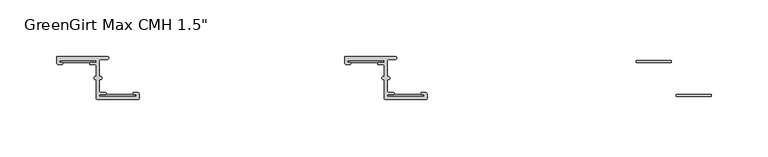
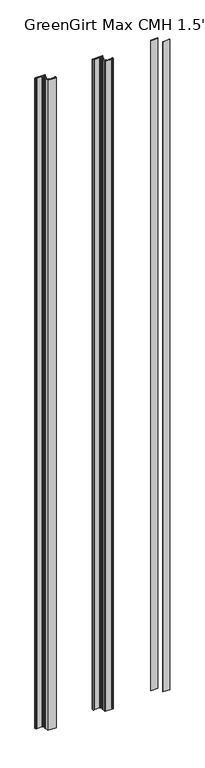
"""IFC4 building model written with IfcOpenShell, lengths in millimetres: fastener geometry."""

from ifc_helpers import new_model, si_unit, frame, origin, origin_with_axes, place, context, project, spatial, polyline, circle_curve, outline, extrude, source, transform, mapped, element, save
from ifc_brep_helpers import plane_surface, cylinder_surface, revolved_surface, advanced_brep


def fastener_70a87223(model_context):
    return source(origin(), model_context, "Body", "SolidModel", [
        extrude(outline(polyline([(1863.09, -3.556), (1863.09, -5.2832), (1832.102, -5.2832), (1832.102, -3.556), (1863.09, -3.556)])), origin_with_axes(), (0.0, 0.0, 1.0), 3048.0),
        extrude(outline(polyline([(1898.269, -33.7057766), (1898.269, -35.4329766), (1867.281, -35.4329766), (1867.281, -33.7057766), (1898.269, -33.7057766)])), origin_with_axes(), (0.0, 0.0, 1.0), 3048.0),
        advanced_brep(
        [(1578.102, -3.556, 3048.0), (1609.09, -3.556, 3048.0), (1609.09, -5.2832, 3048.0), (1604.899, -5.2832, 3048.0), (1604.899, -7.3152, 3048.0), (1609.09, -7.3152, 3048.0), (1609.852, -8.0772, 3048.0), (1609.852, -17.7601563, 3048.0), (1609.0035567, -17.7601563, 3048.0), (1609.0035567, -20.4288947, 3048.0), (1609.852, -20.4288947, 3048.0), (1609.852, -37.3379766, 3048.0), (1610.614, -38.0999766, 3048.0), (1646.8513242, -38.1, 3048.0), (1647.571, -37.3379766, 3048.0), (1647.571, -33.7057766, 3048.0), (1645.539, -31.6737766, 3048.0), (1643.253, -31.6737766, 3048.0), (1643.253, -33.7057766, 3048.0), (1644.269, -33.7057766, 3048.0), (1644.269, -35.4329766, 3048.0), (1613.281, -35.4329766, 3048.0), (1613.281, -33.7057766, 3048.0), (1617.472, -33.7057766, 3048.0), (1617.472, -31.6737766, 3048.0), (1613.281, -31.6737766, 3048.0), (1612.519, -30.9117766, 3048.0), (1612.519, -20.4279799, 3048.0), (1613.3679007, -20.4279799, 3048.0), (1613.3679007, -17.7601563, 3048.0), (1612.519, -17.7601563, 3048.0), (1612.519, -3.429, 3048.0), (1613.281, -2.667, 3048.0), (1619.377, -2.667, 3048.0), (1619.377, 0.0, 3048.0), (1575.562, 0.0, 3048.0), (1574.8, -0.762, 3048.0), (1574.8, -5.2832, 3048.0), (1576.832, -7.3152, 3048.0), (1579.118, -7.3152, 3048.0), (1579.118, -5.2832, 3048.0), (1578.102, -5.2832, 3048.0), (1578.102, -3.556, 0.0), (1578.102, -5.2832, 0.0), (1579.118, -5.2832, 0.0), (1579.118, -7.3152, 0.0), (1576.832, -7.3152, 0.0), (1574.8, -5.2832, 0.0), (1574.8, -0.762, 0.0), (1575.562, 0.0, 0.0), (1619.377, 0.0, 0.0), (1619.377, -2.667, 0.0), (1613.281, -2.667, 0.0), (1612.519, -3.429, 0.0), (1612.519, -17.7601563, 0.0), (1613.3679007, -17.7601563, 0.0), (1613.3679007, -20.4279799, 0.0), (1612.519, -20.4279799, 0.0), (1612.519, -30.9117766, 0.0), (1613.281, -31.6737766, 0.0), (1617.472, -31.6737766, 0.0), (1617.472, -33.7057766, 0.0), (1613.281, -33.7057766, 0.0), (1613.281, -35.4329766, 0.0), (1644.269, -35.4329766, 0.0), (1644.269, -33.7057766, 0.0), (1643.253, -33.7057766, 0.0), (1643.253, -31.6737766, 0.0), (1645.539, -31.6737766, 0.0), (1647.571, -33.7057766, 0.0), (1647.571, -37.3379766, 0.0), (1646.809, -38.0999766, 0.0), (1610.7467826, -38.1, 0.0), (1609.852, -37.3379766, 0.0), (1609.852, -20.4288947, 0.0), (1609.0035567, -20.4288947, 0.0), (1609.0035567, -17.7601563, 0.0), (1609.852, -17.7601563, 0.0), (1609.852, -8.0772, 0.0), (1609.09, -7.3152, 0.0), (1604.899, -7.3152, 0.0), (1604.899, -5.2832, 0.0), (1609.09, -5.2832, 0.0), (1609.09, -3.556, 0.0)],
        [
            (0, 1),
            (1, 2, circle_curve(frame((1609.09, -4.4196, 3048.0), z_axis=(0.0, 0.0, -1.0), x_axis=(1.0, 0.0, 0.0)), 0.8636)),
            (2, 3),
            (3, 4, circle_curve(frame((1604.899, -6.2992, 3048.0), z_axis=(0.0, 0.0, 1.0), x_axis=(1.0, 0.0, 0.0)), 1.016)),
            (4, 5),
            (5, 6, circle_curve(frame((1609.09, -8.0772, 3048.0), z_axis=(0.0, 0.0, -1.0), x_axis=(1.0, 0.0, 0.0)), 0.762)),
            (6, 7),
            (7, 8),
            (8, 9, circle_curve(frame((1609.0035567, -19.0945255, 3048.0), z_axis=(0.0, 0.0, 1.0), x_axis=(1.0, 0.0, 0.0)), 1.3343692)),
            (9, 10),
            (10, 11),
            (11, 12, circle_curve(frame((1610.614, -37.3379766, 3048.0), z_axis=(0.0, 0.0, 1.0), x_axis=(1.0, 0.0, 0.0)), 0.762)),
            (12, 13),
            (13, 14, circle_curve(frame((1646.809, -37.3379766, 3048.0), z_axis=(0.0, 0.0, 1.0), x_axis=(1.0, 0.0, 0.0)), 0.762)),
            (14, 15),
            (15, 16, circle_curve(frame((1645.539, -33.7057766, 3048.0), z_axis=(0.0, 0.0, 1.0), x_axis=(1.0, 0.0, 0.0)), 2.032)),
            (16, 17),
            (17, 18, circle_curve(frame((1643.253, -32.6897766, 3048.0), z_axis=(0.0, 0.0, 1.0), x_axis=(1.0, 0.0, 0.0)), 1.016)),
            (18, 19),
            (19, 20, circle_curve(frame((1644.269, -34.5693766, 3048.0), z_axis=(0.0, 0.0, -1.0), x_axis=(1.0, 0.0, 0.0)), 0.8636)),
            (20, 21),
            (21, 22, circle_curve(frame((1613.281, -34.5693766, 3048.0), z_axis=(0.0, 0.0, -1.0), x_axis=(1.0, 0.0, 0.0)), 0.8636)),
            (22, 23),
            (23, 24, circle_curve(frame((1617.472, -32.6897766, 3048.0), z_axis=(0.0, 0.0, 1.0), x_axis=(1.0, 0.0, 0.0)), 1.016)),
            (24, 25),
            (25, 26, circle_curve(frame((1613.281, -30.9117766, 3048.0), z_axis=(0.0, 0.0, -1.0), x_axis=(1.0, 0.0, 0.0)), 0.762)),
            (26, 27),
            (27, 28),
            (28, 29, circle_curve(frame((1613.3679007, -19.0940681, 3048.0), z_axis=(0.0, 0.0, 1.0), x_axis=(1.0, 0.0, 0.0)), 1.3339118)),
            (29, 30),
            (30, 31),
            (31, 32, circle_curve(frame((1613.281, -3.429, 3048.0), z_axis=(0.0, 0.0, -1.0), x_axis=(1.0, 0.0, 0.0)), 0.762)),
            (32, 33),
            (33, 34, circle_curve(frame((1619.377, -1.3335, 3048.0), z_axis=(0.0, 0.0, 1.0), x_axis=(1.0, 0.0, 0.0)), 1.3335)),
            (34, 35),
            (35, 36, circle_curve(frame((1575.562, -0.762, 3048.0), z_axis=(0.0, 0.0, 1.0), x_axis=(1.0, 0.0, 0.0)), 0.762)),
            (36, 37),
            (37, 38, circle_curve(frame((1576.832, -5.2832, 3048.0), z_axis=(0.0, 0.0, 1.0), x_axis=(1.0, 0.0, 0.0)), 2.032)),
            (38, 39),
            (39, 40, circle_curve(frame((1579.118, -6.2992, 3048.0), z_axis=(0.0, 0.0, 1.0), x_axis=(1.0, 0.0, 0.0)), 1.016)),
            (40, 41),
            (41, 0, circle_curve(frame((1578.102, -4.4196, 3048.0), z_axis=(0.0, 0.0, -1.0), x_axis=(1.0, 0.0, 0.0)), 0.8636)),
            (42, 43, circle_curve(frame((1578.102, -4.4196, 0.0), z_axis=(0.0, 0.0, 1.0), x_axis=(1.0, 0.0, 0.0)), 0.8636)),
            (43, 44),
            (44, 45, circle_curve(frame((1579.118, -6.2992, 0.0), z_axis=(0.0, 0.0, -1.0), x_axis=(1.0, 0.0, 0.0)), 1.016)),
            (45, 46),
            (46, 47, circle_curve(frame((1576.832, -5.2832, 0.0), z_axis=(0.0, 0.0, -1.0), x_axis=(1.0, 0.0, 0.0)), 2.032)),
            (47, 48),
            (48, 49, circle_curve(frame((1575.562, -0.762, 0.0), z_axis=(0.0, 0.0, -1.0), x_axis=(1.0, 0.0, 0.0)), 0.762)),
            (49, 50),
            (50, 51, circle_curve(frame((1619.377, -1.3335, 0.0), z_axis=(0.0, 0.0, -1.0), x_axis=(1.0, 0.0, 0.0)), 1.3335)),
            (51, 52),
            (52, 53, circle_curve(frame((1613.281, -3.429, 0.0), z_axis=(0.0, 0.0, 1.0), x_axis=(1.0, 0.0, 0.0)), 0.762)),
            (53, 54),
            (54, 55),
            (55, 56, circle_curve(frame((1613.3679007, -19.0940681, 0.0), z_axis=(0.0, 0.0, -1.0), x_axis=(1.0, 0.0, 0.0)), 1.3339118)),
            (56, 57),
            (57, 58),
            (58, 59, circle_curve(frame((1613.281, -30.9117766, 0.0), z_axis=(0.0, 0.0, 1.0), x_axis=(1.0, 0.0, 0.0)), 0.762)),
            (59, 60),
            (60, 61, circle_curve(frame((1617.472, -32.6897766, 0.0), z_axis=(0.0, 0.0, -1.0), x_axis=(1.0, 0.0, 0.0)), 1.016)),
            (61, 62),
            (62, 63, circle_curve(frame((1613.281, -34.5693766, 0.0), z_axis=(0.0, 0.0, 1.0), x_axis=(1.0, 0.0, 0.0)), 0.8636)),
            (63, 64),
            (64, 65, circle_curve(frame((1644.269, -34.5693766, 0.0), z_axis=(0.0, 0.0, 1.0), x_axis=(1.0, 0.0, 0.0)), 0.8636)),
            (65, 66),
            (66, 67, circle_curve(frame((1643.253, -32.6897766, 0.0), z_axis=(0.0, 0.0, -1.0), x_axis=(1.0, 0.0, 0.0)), 1.016)),
            (67, 68),
            (68, 69, circle_curve(frame((1645.539, -33.7057766, 0.0), z_axis=(0.0, 0.0, -1.0), x_axis=(1.0, 0.0, 0.0)), 2.032)),
            (69, 70),
            (70, 71, circle_curve(frame((1646.809, -37.3379766, 0.0), z_axis=(0.0, 0.0, -1.0), x_axis=(1.0, 0.0, 0.0)), 0.762)),
            (71, 72),
            (72, 73, circle_curve(frame((1610.614, -37.3379766, 0.0), z_axis=(0.0, 0.0, -1.0), x_axis=(1.0, 0.0, 0.0)), 0.762)),
            (73, 74),
            (74, 75),
            (75, 76, circle_curve(frame((1609.0035567, -19.0945255, 0.0), z_axis=(0.0, 0.0, -1.0), x_axis=(1.0, 0.0, 0.0)), 1.3343692)),
            (76, 77),
            (77, 78),
            (78, 79, circle_curve(frame((1609.09, -8.0772, 0.0), z_axis=(0.0, 0.0, 1.0), x_axis=(1.0, 0.0, 0.0)), 0.762)),
            (79, 80),
            (80, 81, circle_curve(frame((1604.899, -6.2992, 0.0), z_axis=(0.0, 0.0, -1.0), x_axis=(1.0, 0.0, 0.0)), 1.016)),
            (81, 82),
            (82, 83, circle_curve(frame((1609.09, -4.4196, 0.0), z_axis=(0.0, 0.0, 1.0), x_axis=(1.0, 0.0, 0.0)), 0.8636)),
            (83, 42),
            (0, 42),
            (83, 1),
            (82, 2),
            (81, 3),
            (80, 4),
            (79, 5),
            (78, 6),
            (77, 7),
            (76, 8),
            (75, 9),
            (74, 10),
            (73, 11),
            (72, 12),
            (71, 13),
            (70, 14),
            (69, 15),
            (68, 16),
            (67, 17),
            (66, 18),
            (65, 19),
            (64, 20),
            (63, 21),
            (62, 22),
            (61, 23),
            (60, 24),
            (59, 25),
            (58, 26),
            (57, 27),
            (56, 28),
            (55, 29),
            (54, 30),
            (53, 31),
            (52, 32),
            (51, 33),
            (50, 34),
            (49, 35),
            (48, 36),
            (47, 37),
            (46, 38),
            (45, 39),
            (44, 40),
            (43, 41),
        ],
        [
            plane_surface(frame((1609.09, -3.556, 3048.0), z_axis=(0.0, 0.0, 1.0), x_axis=(1.0, 0.0, 0.0))),
            plane_surface(frame((1609.09, -3.556, 0.0), z_axis=(0.0, 0.0, -1.0), x_axis=(-1.0, 0.0, 0.0))),
            plane_surface(frame((1578.102, -3.556, 3048.0), z_axis=(0.0, -1.0, 0.0), x_axis=(0.0, 0.0, -1.0))),
            revolved_surface(polyline([(1609.9535999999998, -4.4196, 0.0), (1609.9535999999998, -4.4196, 3048.0)]), (1609.09, -4.4196, 0.0), (0.0, 0.0, -1.0)),
            plane_surface(frame((1609.09, -5.2832, 3048.0), z_axis=(0.0, 1.0, 0.0), x_axis=(0.0, 0.0, -1.0))),
            cylinder_surface(frame((1604.899, -6.2992, 0.0), z_axis=(0.0, 0.0, 1.0), x_axis=(1.0, 0.0, 0.0)), 1.016),
            plane_surface(frame((1604.899, -7.3152, 3048.0), z_axis=(0.0, -1.0, 0.0), x_axis=(0.0, 0.0, -1.0))),
            revolved_surface(polyline([(1609.8519999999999, -8.0772, 0.0), (1609.8519999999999, -8.0772, 3048.0)]), (1609.09, -8.0772, 0.0), (0.0, 0.0, -1.0)),
            plane_surface(frame((1609.852, -8.0772, 3048.0), z_axis=(-1.0, 0.0, 0.0), x_axis=(0.0, 0.0, -1.0))),
            plane_surface(frame((1609.852, -17.7601563, 3048.0), z_axis=(0.0, 1.0, 0.0), x_axis=(0.0, 0.0, -1.0))),
            cylinder_surface(frame((1609.0035567, -19.0945255, 0.0), z_axis=(0.0, 0.0, 1.0), x_axis=(1.0, 0.0, 0.0)), 1.3343692),
            plane_surface(frame((1609.0035567, -20.4288947, 3048.0), z_axis=(0.0, -1.0, 0.0), x_axis=(0.0, 0.0, -1.0))),
            plane_surface(frame((1609.852, -20.4288947, 3048.0), z_axis=(-1.0, 0.0, 0.0), x_axis=(0.0, 0.0, -1.0))),
            cylinder_surface(frame((1610.614, -37.3379766, 0.0), z_axis=(0.0, 0.0, 1.0), x_axis=(1.0, 0.0, 0.0)), 0.762),
            plane_surface(frame((1610.7467826, -38.1, 3048.0), z_axis=(0.0, -1.0, 0.0), x_axis=(0.0, 0.0, -1.0))),
            cylinder_surface(frame((1646.809, -37.3379766, 0.0), z_axis=(0.0, 0.0, 1.0), x_axis=(1.0, 0.0, 0.0)), 0.762),
            plane_surface(frame((1647.571, -37.3379766, 3048.0), z_axis=(1.0, 1.094695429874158e-12, 0.0), x_axis=(0.0, 0.0, -1.0))),
            cylinder_surface(frame((1645.539, -33.7057766, 0.0), z_axis=(0.0, 0.0, 1.0), x_axis=(1.0, 0.0, 0.0)), 2.032),
            plane_surface(frame((1645.539, -31.6737766, 3048.0), z_axis=(0.0, 1.0, 0.0), x_axis=(0.0, 0.0, -1.0))),
            cylinder_surface(frame((1643.253, -32.6897766, 0.0), z_axis=(0.0, 0.0, 1.0), x_axis=(1.0, 0.0, 0.0)), 1.016),
            plane_surface(frame((1643.253, -33.7057766, 3048.0), z_axis=(0.0, -1.0, 0.0), x_axis=(0.0, 0.0, -1.0))),
            revolved_surface(polyline([(1645.1326, -34.5693766, 0.0), (1645.1326, -34.5693766, 3048.0)]), (1644.269, -34.5693766, 0.0), (0.0, 0.0, -1.0)),
            plane_surface(frame((1644.269, -35.4329766, 3048.0), z_axis=(0.0, 1.0, 0.0), x_axis=(0.0, 0.0, -1.0))),
            revolved_surface(polyline([(1614.1445999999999, -34.5693766, 0.0), (1614.1445999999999, -34.5693766, 3048.0)]), (1613.281, -34.5693766, 0.0), (0.0, 0.0, -1.0)),
            plane_surface(frame((1613.281, -33.7057766, 3048.0), z_axis=(0.0, -1.0, 0.0), x_axis=(0.0, 0.0, -1.0))),
            cylinder_surface(frame((1617.472, -32.6897766, 0.0), z_axis=(0.0, 0.0, 1.0), x_axis=(1.0, 0.0, 0.0)), 1.016),
            plane_surface(frame((1617.472, -31.6737766, 3048.0), z_axis=(0.0, 1.0, 0.0), x_axis=(0.0, 0.0, -1.0))),
            revolved_surface(polyline([(1614.043, -30.9117766, 0.0), (1614.043, -30.9117766, 3048.0)]), (1613.281, -30.9117766, 0.0), (0.0, 0.0, -1.0)),
            plane_surface(frame((1612.519, -30.9117766, 3048.0), z_axis=(1.0, 0.0, 0.0), x_axis=(0.0, 0.0, -1.0))),
            plane_surface(frame((1612.519, -20.4279799, 3048.0), z_axis=(0.0, -1.0, 0.0), x_axis=(0.0, 0.0, -1.0))),
            cylinder_surface(frame((1613.3679007, -19.0940681, 0.0), z_axis=(0.0, 0.0, 1.0), x_axis=(1.0, 0.0, 0.0)), 1.3339118),
            plane_surface(frame((1613.3679007, -17.7601563, 3048.0), z_axis=(0.0, 1.0, 0.0), x_axis=(0.0, 0.0, -1.0))),
            plane_surface(frame((1612.519, -17.7601563, 3048.0), z_axis=(1.0, 0.0, 0.0), x_axis=(0.0, 0.0, -1.0))),
            revolved_surface(polyline([(1614.043, -3.429, 0.0), (1614.043, -3.429, 3048.0)]), (1613.281, -3.429, 0.0), (0.0, 0.0, -1.0)),
            plane_surface(frame((1613.281, -2.667, 3048.0), z_axis=(0.0, -1.0, 0.0), x_axis=(0.0, 0.0, -1.0))),
            cylinder_surface(frame((1619.377, -1.3335, 0.0), z_axis=(0.0, 0.0, 1.0), x_axis=(1.0, 0.0, 0.0)), 1.3335),
            plane_surface(frame((1619.377, 0.0, 3048.0), z_axis=(0.0, 1.0, 0.0), x_axis=(0.0, 0.0, -1.0))),
            cylinder_surface(frame((1575.562, -0.762, 0.0), z_axis=(0.0, 0.0, 1.0), x_axis=(1.0, 0.0, 0.0)), 0.762),
            plane_surface(frame((1574.8, -0.762, 3048.0), z_axis=(-1.0, 1.1909948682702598e-12, 0.0), x_axis=(0.0, 0.0, -1.0))),
            cylinder_surface(frame((1576.832, -5.2832, 0.0), z_axis=(0.0, 0.0, 1.0), x_axis=(1.0, 0.0, 0.0)), 2.032),
            plane_surface(frame((1576.832, -7.3152, 3048.0), z_axis=(0.0, -1.0, 0.0), x_axis=(0.0, 0.0, -1.0))),
            cylinder_surface(frame((1579.118, -6.2992, 0.0), z_axis=(0.0, 0.0, 1.0), x_axis=(1.0, 0.0, 0.0)), 1.016),
            plane_surface(frame((1579.118, -5.2832, 3048.0), z_axis=(0.0, 1.0, 0.0), x_axis=(0.0, 0.0, -1.0))),
            revolved_surface(polyline([(1578.9656, -4.4196, 0.0), (1578.9656, -4.4196, 3048.0)]), (1578.102, -4.4196, 0.0), (0.0, 0.0, -1.0)),
        ],
        [
            (0, [[1, 2, 3, 4, 5, 6, 7, 8, 9, 10, 11, 12, 13, 14, 15, 16, 17, 18, 19, 20, 21, 22, 23, 24, 25, 26, 27, 28, 29, 30, 31, 32, 33, 34, 35, 36, 37, 38, 39, 40, 41, 42]]),
            (1, [[43, 44, 45, 46, 47, 48, 49, 50, 51, 52, 53, 54, 55, 56, 57, 58, 59, 60, 61, 62, 63, 64, 65, 66, 67, 68, 69, 70, 71, 72, 73, 74, 75, 76, 77, 78, 79, 80, 81, 82, 83, 84]]),
            (2, [[-1, 85, -84, 86]]),
            (3, [[-2, -86, -83, 87]]),
            (4, [[-3, -87, -82, 88]]),
            (5, [[-4, -88, -81, 89]]),
            (6, [[-5, -89, -80, 90]]),
            (7, [[-6, -90, -79, 91]]),
            (8, [[-7, -91, -78, 92]]),
            (9, [[-8, -92, -77, 93]]),
            (10, [[-9, -93, -76, 94]]),
            (11, [[-10, -94, -75, 95]]),
            (12, [[-11, -95, -74, 96]]),
            (13, [[-12, -96, -73, 97]]),
            (14, [[-13, -97, -72, 98]]),
            (15, [[-14, -98, -71, 99]]),
            (16, [[-15, -99, -70, 100]]),
            (17, [[-16, -100, -69, 101]]),
            (18, [[-17, -101, -68, 102]]),
            (19, [[-18, -102, -67, 103]]),
            (20, [[-19, -103, -66, 104]]),
            (21, [[-20, -104, -65, 105]]),
            (22, [[-21, -105, -64, 106]]),
            (23, [[-22, -106, -63, 107]]),
            (24, [[-23, -107, -62, 108]]),
            (25, [[-24, -108, -61, 109]]),
            (26, [[-25, -109, -60, 110]]),
            (27, [[-26, -110, -59, 111]]),
            (28, [[-27, -111, -58, 112]]),
            (29, [[-28, -112, -57, 113]]),
            (30, [[-29, -113, -56, 114]]),
            (31, [[-30, -114, -55, 115]]),
            (32, [[-31, -115, -54, 116]]),
            (33, [[-32, -116, -53, 117]]),
            (34, [[-33, -117, -52, 118]]),
            (35, [[-34, -118, -51, 119]]),
            (36, [[-35, -119, -50, 120]]),
            (37, [[-36, -120, -49, 121]]),
            (38, [[-37, -121, -48, 122]]),
            (39, [[-38, -122, -47, 123]]),
            (40, [[-39, -123, -46, 124]]),
            (41, [[-40, -124, -45, 125]]),
            (42, [[-41, -125, -44, 126]]),
            (43, [[-42, -126, -43, -85]]),
        ],
    ),
        extrude(outline(polyline([(1609.09, -3.556), (1609.09, -5.2832), (1578.102, -5.2832), (1578.102, -3.556), (1609.09, -3.556)])), origin_with_axes(), (0.0, 0.0, 1.0), 3048.0),
        extrude(outline(polyline([(1644.269, -33.7057766), (1644.269, -35.4329766), (1613.281, -35.4329766), (1613.281, -33.7057766), (1644.269, -33.7057766)])), origin_with_axes(), (0.0, 0.0, 1.0), 3048.0),
        advanced_brep(
        [(1324.102, -3.556, 3048.0), (1355.09, -3.556, 3048.0), (1355.09, -5.2832, 3048.0), (1350.899, -5.2832, 3048.0), (1350.899, -7.3152, 3048.0), (1355.09, -7.3152, 3048.0), (1355.852, -8.0772, 3048.0), (1355.852, -17.7601563, 3048.0), (1355.0035567, -17.7601563, 3048.0), (1355.0035567, -20.4288947, 3048.0), (1355.852, -20.4288947, 3048.0), (1355.852, -37.3379766, 3048.0), (1356.614, -38.0999766, 3048.0), (1392.8513242, -38.1, 3048.0), (1393.571, -37.3379766, 3048.0), (1393.571, -33.7057766, 3048.0), (1391.539, -31.6737766, 3048.0), (1389.253, -31.6737766, 3048.0), (1389.253, -33.7057766, 3048.0), (1390.269, -33.7057766, 3048.0), (1390.269, -35.4329766, 3048.0), (1359.281, -35.4329766, 3048.0), (1359.281, -33.7057766, 3048.0), (1363.472, -33.7057766, 3048.0), (1363.472, -31.6737766, 3048.0), (1359.281, -31.6737766, 3048.0), (1358.519, -30.9117766, 3048.0), (1358.519, -20.4279799, 3048.0), (1359.3679007, -20.4279799, 3048.0), (1359.3679007, -17.7601563, 3048.0), (1358.519, -17.7601563, 3048.0), (1358.519, -3.429, 3048.0), (1359.281, -2.667, 3048.0), (1365.377, -2.667, 3048.0), (1365.377, 0.0, 3048.0), (1321.562, 0.0, 3048.0), (1320.8, -0.762, 3048.0), (1320.8, -5.2832, 3048.0), (1322.832, -7.3152, 3048.0), (1325.118, -7.3152, 3048.0), (1325.118, -5.2832, 3048.0), (1324.102, -5.2832, 3048.0), (1324.102, -3.556, 0.0), (1324.102, -5.2832, 0.0), (1325.118, -5.2832, 0.0), (1325.118, -7.3152, 0.0), (1322.832, -7.3152, 0.0), (1320.8, -5.2832, 0.0), (1320.8, -0.762, 0.0), (1321.562, 0.0, 0.0), (1365.377, 0.0, 0.0), (1365.377, -2.667, 0.0), (1359.281, -2.667, 0.0), (1358.519, -3.429, 0.0), (1358.519, -17.7601563, 0.0), (1359.3679007, -17.7601563, 0.0), (1359.3679007, -20.4279799, 0.0), (1358.519, -20.4279799, 0.0), (1358.519, -30.9117766, 0.0), (1359.281, -31.6737766, 0.0), (1363.472, -31.6737766, 0.0), (1363.472, -33.7057766, 0.0), (1359.281, -33.7057766, 0.0), (1359.281, -35.4329766, 0.0), (1390.269, -35.4329766, 0.0), (1390.269, -33.7057766, 0.0), (1389.253, -33.7057766, 0.0), (1389.253, -31.6737766, 0.0), (1391.539, -31.6737766, 0.0), (1393.571, -33.7057766, 0.0), (1393.571, -37.3379766, 0.0), (1392.809, -38.0999766, 0.0), (1356.7467826, -38.1, 0.0), (1355.852, -37.3379766, 0.0), (1355.852, -20.4288947, 0.0), (1355.0035567, -20.4288947, 0.0), (1355.0035567, -17.7601563, 0.0), (1355.852, -17.7601563, 0.0), (1355.852, -8.0772, 0.0), (1355.09, -7.3152, 0.0), (1350.899, -7.3152, 0.0), (1350.899, -5.2832, 0.0), (1355.09, -5.2832, 0.0), (1355.09, -3.556, 0.0)],
        [
            (0, 1),
            (1, 2, circle_curve(frame((1355.09, -4.4196, 3048.0), z_axis=(0.0, 0.0, -1.0), x_axis=(1.0, 0.0, 0.0)), 0.8636)),
            (2, 3),
            (3, 4, circle_curve(frame((1350.899, -6.2992, 3048.0), z_axis=(0.0, 0.0, 1.0), x_axis=(1.0, 0.0, 0.0)), 1.016)),
            (4, 5),
            (5, 6, circle_curve(frame((1355.09, -8.0772, 3048.0), z_axis=(0.0, 0.0, -1.0), x_axis=(1.0, 0.0, 0.0)), 0.762)),
            (6, 7),
            (7, 8),
            (8, 9, circle_curve(frame((1355.0035567, -19.0945255, 3048.0), z_axis=(0.0, 0.0, 1.0), x_axis=(1.0, 0.0, 0.0)), 1.3343692)),
            (9, 10),
            (10, 11),
            (11, 12, circle_curve(frame((1356.614, -37.3379766, 3048.0), z_axis=(0.0, 0.0, 1.0), x_axis=(1.0, 0.0, 0.0)), 0.762)),
            (12, 13),
            (13, 14, circle_curve(frame((1392.809, -37.3379766, 3048.0), z_axis=(0.0, 0.0, 1.0), x_axis=(1.0, 0.0, 0.0)), 0.762)),
            (14, 15),
            (15, 16, circle_curve(frame((1391.539, -33.7057766, 3048.0), z_axis=(0.0, 0.0, 1.0), x_axis=(1.0, 0.0, 0.0)), 2.032)),
            (16, 17),
            (17, 18, circle_curve(frame((1389.253, -32.6897766, 3048.0), z_axis=(0.0, 0.0, 1.0), x_axis=(1.0, 0.0, 0.0)), 1.016)),
            (18, 19),
            (19, 20, circle_curve(frame((1390.269, -34.5693766, 3048.0), z_axis=(0.0, 0.0, -1.0), x_axis=(1.0, 0.0, 0.0)), 0.8636)),
            (20, 21),
            (21, 22, circle_curve(frame((1359.281, -34.5693766, 3048.0), z_axis=(0.0, 0.0, -1.0), x_axis=(1.0, 0.0, 0.0)), 0.8636)),
            (22, 23),
            (23, 24, circle_curve(frame((1363.472, -32.6897766, 3048.0), z_axis=(0.0, 0.0, 1.0), x_axis=(1.0, 0.0, 0.0)), 1.016)),
            (24, 25),
            (25, 26, circle_curve(frame((1359.281, -30.9117766, 3048.0), z_axis=(0.0, 0.0, -1.0), x_axis=(1.0, 0.0, 0.0)), 0.762)),
            (26, 27),
            (27, 28),
            (28, 29, circle_curve(frame((1359.3679007, -19.0940681, 3048.0), z_axis=(0.0, 0.0, 1.0), x_axis=(1.0, 0.0, 0.0)), 1.3339118)),
            (29, 30),
            (30, 31),
            (31, 32, circle_curve(frame((1359.281, -3.429, 3048.0), z_axis=(0.0, 0.0, -1.0), x_axis=(1.0, 0.0, 0.0)), 0.762)),
            (32, 33),
            (33, 34, circle_curve(frame((1365.377, -1.3335, 3048.0), z_axis=(0.0, 0.0, 1.0), x_axis=(1.0, 0.0, 0.0)), 1.3335)),
            (34, 35),
            (35, 36, circle_curve(frame((1321.562, -0.762, 3048.0), z_axis=(0.0, 0.0, 1.0), x_axis=(1.0, 0.0, 0.0)), 0.762)),
            (36, 37),
            (37, 38, circle_curve(frame((1322.832, -5.2832, 3048.0), z_axis=(0.0, 0.0, 1.0), x_axis=(1.0, 0.0, 0.0)), 2.032)),
            (38, 39),
            (39, 40, circle_curve(frame((1325.118, -6.2992, 3048.0), z_axis=(0.0, 0.0, 1.0), x_axis=(1.0, 0.0, 0.0)), 1.016)),
            (40, 41),
            (41, 0, circle_curve(frame((1324.102, -4.4196, 3048.0), z_axis=(0.0, 0.0, -1.0), x_axis=(1.0, 0.0, 0.0)), 0.8636)),
            (42, 43, circle_curve(frame((1324.102, -4.4196, 0.0), z_axis=(0.0, 0.0, 1.0), x_axis=(1.0, 0.0, 0.0)), 0.8636)),
            (43, 44),
            (44, 45, circle_curve(frame((1325.118, -6.2992, 0.0), z_axis=(0.0, 0.0, -1.0), x_axis=(1.0, 0.0, 0.0)), 1.016)),
            (45, 46),
            (46, 47, circle_curve(frame((1322.832, -5.2832, 0.0), z_axis=(0.0, 0.0, -1.0), x_axis=(1.0, 0.0, 0.0)), 2.032)),
            (47, 48),
            (48, 49, circle_curve(frame((1321.562, -0.762, 0.0), z_axis=(0.0, 0.0, -1.0), x_axis=(1.0, 0.0, 0.0)), 0.762)),
            (49, 50),
            (50, 51, circle_curve(frame((1365.377, -1.3335, 0.0), z_axis=(0.0, 0.0, -1.0), x_axis=(1.0, 0.0, 0.0)), 1.3335)),
            (51, 52),
            (52, 53, circle_curve(frame((1359.281, -3.429, 0.0), z_axis=(0.0, 0.0, 1.0), x_axis=(1.0, 0.0, 0.0)), 0.762)),
            (53, 54),
            (54, 55),
            (55, 56, circle_curve(frame((1359.3679007, -19.0940681, 0.0), z_axis=(0.0, 0.0, -1.0), x_axis=(1.0, 0.0, 0.0)), 1.3339118)),
            (56, 57),
            (57, 58),
            (58, 59, circle_curve(frame((1359.281, -30.9117766, 0.0), z_axis=(0.0, 0.0, 1.0), x_axis=(1.0, 0.0, 0.0)), 0.762)),
            (59, 60),
            (60, 61, circle_curve(frame((1363.472, -32.6897766, 0.0), z_axis=(0.0, 0.0, -1.0), x_axis=(1.0, 0.0, 0.0)), 1.016)),
            (61, 62),
            (62, 63, circle_curve(frame((1359.281, -34.5693766, 0.0), z_axis=(0.0, 0.0, 1.0), x_axis=(1.0, 0.0, 0.0)), 0.8636)),
            (63, 64),
            (64, 65, circle_curve(frame((1390.269, -34.5693766, 0.0), z_axis=(0.0, 0.0, 1.0), x_axis=(1.0, 0.0, 0.0)), 0.8636)),
            (65, 66),
            (66, 67, circle_curve(frame((1389.253, -32.6897766, 0.0), z_axis=(0.0, 0.0, -1.0), x_axis=(1.0, 0.0, 0.0)), 1.016)),
            (67, 68),
            (68, 69, circle_curve(frame((1391.539, -33.7057766, 0.0), z_axis=(0.0, 0.0, -1.0), x_axis=(1.0, 0.0, 0.0)), 2.032)),
            (69, 70),
            (70, 71, circle_curve(frame((1392.809, -37.3379766, 0.0), z_axis=(0.0, 0.0, -1.0), x_axis=(1.0, 0.0, 0.0)), 0.762)),
            (71, 72),
            (72, 73, circle_curve(frame((1356.614, -37.3379766, 0.0), z_axis=(0.0, 0.0, -1.0), x_axis=(1.0, 0.0, 0.0)), 0.762)),
            (73, 74),
            (74, 75),
            (75, 76, circle_curve(frame((1355.0035567, -19.0945255, 0.0), z_axis=(0.0, 0.0, -1.0), x_axis=(1.0, 0.0, 0.0)), 1.3343692)),
            (76, 77),
            (77, 78),
            (78, 79, circle_curve(frame((1355.09, -8.0772, 0.0), z_axis=(0.0, 0.0, 1.0), x_axis=(1.0, 0.0, 0.0)), 0.762)),
            (79, 80),
            (80, 81, circle_curve(frame((1350.899, -6.2992, 0.0), z_axis=(0.0, 0.0, -1.0), x_axis=(1.0, 0.0, 0.0)), 1.016)),
            (81, 82),
            (82, 83, circle_curve(frame((1355.09, -4.4196, 0.0), z_axis=(0.0, 0.0, 1.0), x_axis=(1.0, 0.0, 0.0)), 0.8636)),
            (83, 42),
            (0, 42),
            (83, 1),
            (82, 2),
            (81, 3),
            (80, 4),
            (79, 5),
            (78, 6),
            (77, 7),
            (76, 8),
            (75, 9),
            (74, 10),
            (73, 11),
            (72, 12),
            (71, 13),
            (70, 14),
            (69, 15),
            (68, 16),
            (67, 17),
            (66, 18),
            (65, 19),
            (64, 20),
            (63, 21),
            (62, 22),
            (61, 23),
            (60, 24),
            (59, 25),
            (58, 26),
            (57, 27),
            (56, 28),
            (55, 29),
            (54, 30),
            (53, 31),
            (52, 32),
            (51, 33),
            (50, 34),
            (49, 35),
            (48, 36),
            (47, 37),
            (46, 38),
            (45, 39),
            (44, 40),
            (43, 41),
        ],
        [
            plane_surface(frame((1355.09, -3.556, 3048.0), z_axis=(0.0, 0.0, 1.0), x_axis=(1.0, 0.0, 0.0))),
            plane_surface(frame((1355.09, -3.556, 0.0), z_axis=(0.0, 0.0, -1.0), x_axis=(-1.0, 0.0, 0.0))),
            plane_surface(frame((1324.102, -3.556, 3048.0), z_axis=(0.0, -1.0, 0.0), x_axis=(0.0, 0.0, -1.0))),
            revolved_surface(polyline([(1355.9535999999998, -4.4196, 0.0), (1355.9535999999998, -4.4196, 3048.0)]), (1355.09, -4.4196, 0.0), (0.0, 0.0, -1.0)),
            plane_surface(frame((1355.09, -5.2832, 3048.0), z_axis=(0.0, 1.0, 0.0), x_axis=(0.0, 0.0, -1.0))),
            cylinder_surface(frame((1350.899, -6.2992, 0.0), z_axis=(0.0, 0.0, 1.0), x_axis=(1.0, 0.0, 0.0)), 1.016),
            plane_surface(frame((1350.899, -7.3152, 3048.0), z_axis=(0.0, -1.0, 0.0), x_axis=(0.0, 0.0, -1.0))),
            revolved_surface(polyline([(1355.8519999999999, -8.0772, 0.0), (1355.8519999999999, -8.0772, 3048.0)]), (1355.09, -8.0772, 0.0), (0.0, 0.0, -1.0)),
            plane_surface(frame((1355.852, -8.0772, 3048.0), z_axis=(-1.0, 0.0, 0.0), x_axis=(0.0, 0.0, -1.0))),
            plane_surface(frame((1355.852, -17.7601563, 3048.0), z_axis=(0.0, 1.0, 0.0), x_axis=(0.0, 0.0, -1.0))),
            cylinder_surface(frame((1355.0035567, -19.0945255, 0.0), z_axis=(0.0, 0.0, 1.0), x_axis=(1.0, 0.0, 0.0)), 1.3343692),
            plane_surface(frame((1355.0035567, -20.4288947, 3048.0), z_axis=(0.0, -1.0, 0.0), x_axis=(0.0, 0.0, -1.0))),
            plane_surface(frame((1355.852, -20.4288947, 3048.0), z_axis=(-1.0, 0.0, 0.0), x_axis=(0.0, 0.0, -1.0))),
            cylinder_surface(frame((1356.614, -37.3379766, 0.0), z_axis=(0.0, 0.0, 1.0), x_axis=(1.0, 0.0, 0.0)), 0.762),
            plane_surface(frame((1356.7467826, -38.1, 3048.0), z_axis=(0.0, -1.0, 0.0), x_axis=(0.0, 0.0, -1.0))),
            cylinder_surface(frame((1392.809, -37.3379766, 0.0), z_axis=(0.0, 0.0, 1.0), x_axis=(1.0, 0.0, 0.0)), 0.762),
            plane_surface(frame((1393.571, -37.3379766, 3048.0), z_axis=(1.0, 1.094695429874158e-12, 0.0), x_axis=(0.0, 0.0, -1.0))),
            cylinder_surface(frame((1391.539, -33.7057766, 0.0), z_axis=(0.0, 0.0, 1.0), x_axis=(1.0, 0.0, 0.0)), 2.032),
            plane_surface(frame((1391.539, -31.6737766, 3048.0), z_axis=(0.0, 1.0, 0.0), x_axis=(0.0, 0.0, -1.0))),
            cylinder_surface(frame((1389.253, -32.6897766, 0.0), z_axis=(0.0, 0.0, 1.0), x_axis=(1.0, 0.0, 0.0)), 1.016),
            plane_surface(frame((1389.253, -33.7057766, 3048.0), z_axis=(0.0, -1.0, 0.0), x_axis=(0.0, 0.0, -1.0))),
            revolved_surface(polyline([(1391.1326, -34.5693766, 0.0), (1391.1326, -34.5693766, 3048.0)]), (1390.269, -34.5693766, 0.0), (0.0, 0.0, -1.0)),
            plane_surface(frame((1390.269, -35.4329766, 3048.0), z_axis=(0.0, 1.0, 0.0), x_axis=(0.0, 0.0, -1.0))),
            revolved_surface(polyline([(1360.1445999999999, -34.5693766, 0.0), (1360.1445999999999, -34.5693766, 3048.0)]), (1359.281, -34.5693766, 0.0), (0.0, 0.0, -1.0)),
            plane_surface(frame((1359.281, -33.7057766, 3048.0), z_axis=(0.0, -1.0, 0.0), x_axis=(0.0, 0.0, -1.0))),
            cylinder_surface(frame((1363.472, -32.6897766, 0.0), z_axis=(0.0, 0.0, 1.0), x_axis=(1.0, 0.0, 0.0)), 1.016),
            plane_surface(frame((1363.472, -31.6737766, 3048.0), z_axis=(0.0, 1.0, 0.0), x_axis=(0.0, 0.0, -1.0))),
            revolved_surface(polyline([(1360.043, -30.9117766, 0.0), (1360.043, -30.9117766, 3048.0)]), (1359.281, -30.9117766, 0.0), (0.0, 0.0, -1.0)),
            plane_surface(frame((1358.519, -30.9117766, 3048.0), z_axis=(1.0, 0.0, 0.0), x_axis=(0.0, 0.0, -1.0))),
            plane_surface(frame((1358.519, -20.4279799, 3048.0), z_axis=(0.0, -1.0, 0.0), x_axis=(0.0, 0.0, -1.0))),
            cylinder_surface(frame((1359.3679007, -19.0940681, 0.0), z_axis=(0.0, 0.0, 1.0), x_axis=(1.0, 0.0, 0.0)), 1.3339118),
            plane_surface(frame((1359.3679007, -17.7601563, 3048.0), z_axis=(0.0, 1.0, 0.0), x_axis=(0.0, 0.0, -1.0))),
            plane_surface(frame((1358.519, -17.7601563, 3048.0), z_axis=(1.0, 0.0, 0.0), x_axis=(0.0, 0.0, -1.0))),
            revolved_surface(polyline([(1360.043, -3.429, 0.0), (1360.043, -3.429, 3048.0)]), (1359.281, -3.429, 0.0), (0.0, 0.0, -1.0)),
            plane_surface(frame((1359.281, -2.667, 3048.0), z_axis=(0.0, -1.0, 0.0), x_axis=(0.0, 0.0, -1.0))),
            cylinder_surface(frame((1365.377, -1.3335, 0.0), z_axis=(0.0, 0.0, 1.0), x_axis=(1.0, 0.0, 0.0)), 1.3335),
            plane_surface(frame((1365.377, 0.0, 3048.0), z_axis=(0.0, 1.0, 0.0), x_axis=(0.0, 0.0, -1.0))),
            cylinder_surface(frame((1321.562, -0.762, 0.0), z_axis=(0.0, 0.0, 1.0), x_axis=(1.0, 0.0, 0.0)), 0.762),
            plane_surface(frame((1320.8, -0.762, 3048.0), z_axis=(-1.0, 1.1909948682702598e-12, 0.0), x_axis=(0.0, 0.0, -1.0))),
            cylinder_surface(frame((1322.832, -5.2832, 0.0), z_axis=(0.0, 0.0, 1.0), x_axis=(1.0, 0.0, 0.0)), 2.032),
            plane_surface(frame((1322.832, -7.3152, 3048.0), z_axis=(0.0, -1.0, 0.0), x_axis=(0.0, 0.0, -1.0))),
            cylinder_surface(frame((1325.118, -6.2992, 0.0), z_axis=(0.0, 0.0, 1.0), x_axis=(1.0, 0.0, 0.0)), 1.016),
            plane_surface(frame((1325.118, -5.2832, 3048.0), z_axis=(0.0, 1.0, 0.0), x_axis=(0.0, 0.0, -1.0))),
            revolved_surface(polyline([(1324.9656, -4.4196, 0.0), (1324.9656, -4.4196, 3048.0)]), (1324.102, -4.4196, 0.0), (0.0, 0.0, -1.0)),
        ],
        [
            (0, [[1, 2, 3, 4, 5, 6, 7, 8, 9, 10, 11, 12, 13, 14, 15, 16, 17, 18, 19, 20, 21, 22, 23, 24, 25, 26, 27, 28, 29, 30, 31, 32, 33, 34, 35, 36, 37, 38, 39, 40, 41, 42]]),
            (1, [[43, 44, 45, 46, 47, 48, 49, 50, 51, 52, 53, 54, 55, 56, 57, 58, 59, 60, 61, 62, 63, 64, 65, 66, 67, 68, 69, 70, 71, 72, 73, 74, 75, 76, 77, 78, 79, 80, 81, 82, 83, 84]]),
            (2, [[-1, 85, -84, 86]]),
            (3, [[-2, -86, -83, 87]]),
            (4, [[-3, -87, -82, 88]]),
            (5, [[-4, -88, -81, 89]]),
            (6, [[-5, -89, -80, 90]]),
            (7, [[-6, -90, -79, 91]]),
            (8, [[-7, -91, -78, 92]]),
            (9, [[-8, -92, -77, 93]]),
            (10, [[-9, -93, -76, 94]]),
            (11, [[-10, -94, -75, 95]]),
            (12, [[-11, -95, -74, 96]]),
            (13, [[-12, -96, -73, 97]]),
            (14, [[-13, -97, -72, 98]]),
            (15, [[-14, -98, -71, 99]]),
            (16, [[-15, -99, -70, 100]]),
            (17, [[-16, -100, -69, 101]]),
            (18, [[-17, -101, -68, 102]]),
            (19, [[-18, -102, -67, 103]]),
            (20, [[-19, -103, -66, 104]]),
            (21, [[-20, -104, -65, 105]]),
            (22, [[-21, -105, -64, 106]]),
            (23, [[-22, -106, -63, 107]]),
            (24, [[-23, -107, -62, 108]]),
            (25, [[-24, -108, -61, 109]]),
            (26, [[-25, -109, -60, 110]]),
            (27, [[-26, -110, -59, 111]]),
            (28, [[-27, -111, -58, 112]]),
            (29, [[-28, -112, -57, 113]]),
            (30, [[-29, -113, -56, 114]]),
            (31, [[-30, -114, -55, 115]]),
            (32, [[-31, -115, -54, 116]]),
            (33, [[-32, -116, -53, 117]]),
            (34, [[-33, -117, -52, 118]]),
            (35, [[-34, -118, -51, 119]]),
            (36, [[-35, -119, -50, 120]]),
            (37, [[-36, -120, -49, 121]]),
            (38, [[-37, -121, -48, 122]]),
            (39, [[-38, -122, -47, 123]]),
            (40, [[-39, -123, -46, 124]]),
            (41, [[-40, -124, -45, 125]]),
            (42, [[-41, -125, -44, 126]]),
            (43, [[-42, -126, -43, -85]]),
        ],
    ),
        extrude(outline(polyline([(1355.09, -3.556), (1355.09, -5.2832), (1324.102, -5.2832), (1324.102, -3.556), (1355.09, -3.556)])), origin_with_axes(), (0.0, 0.0, 1.0), 3048.0),
        extrude(outline(polyline([(1390.269, -33.7057766), (1390.269, -35.4329766), (1359.281, -35.4329766), (1359.281, -33.7057766), (1390.269, -33.7057766)])), origin_with_axes(), (0.0, 0.0, 1.0), 3048.0),
    ])


if __name__ == "__main__":
    model = new_model("IFC4")
    model_context = context("Model", 3, world=origin())
    ifc_project = project(units=[si_unit("LENGTHUNIT", "METRE", prefix="MILLI")], contexts=[model_context])
    site = spatial("IfcSite", under=ifc_project)
    building = spatial("IfcBuilding", under=site)
    placement = place(None, origin())
    fastener_shape = fastener_70a87223(model_context)
    element("IfcFastener", 1, ObjectType="Structural-Supporting-Components_Advanced-Architectural-Products_GreenGirt-Max-CMH-System : GreenGirt Max CMH 1.5\"", at=placement, inside=building, context=model_context, shape_type="MappedRepresentation", body=[
        mapped(fastener_shape, transform((0.0, 0.0, 0.0), x_axis=(1.0, 0.0, 0.0), y_axis=(0.0, 1.0, 0.0), z_axis=(0.0, 0.0, 1.0))),
    ])
    save(model, "model.ifc")
